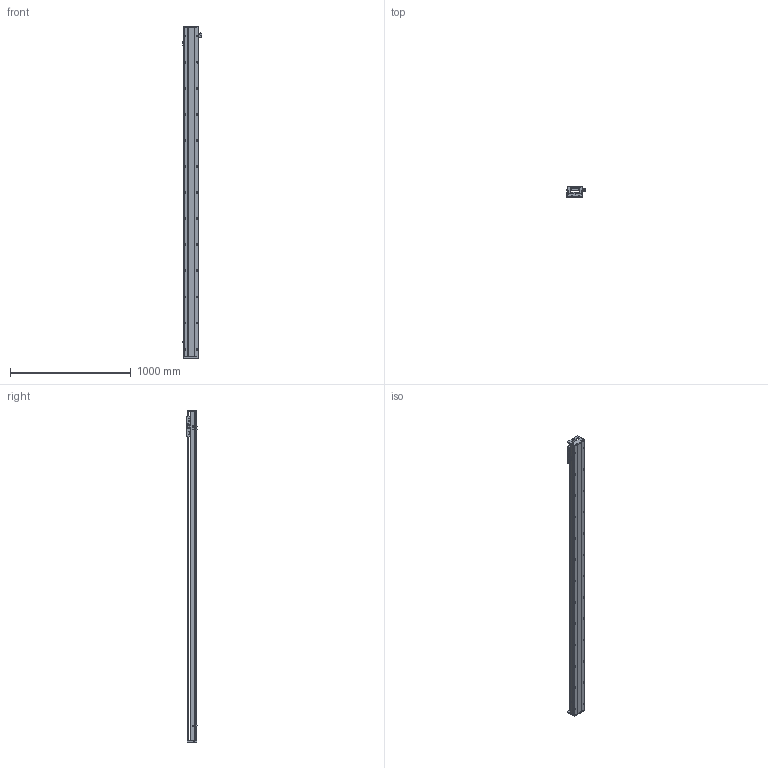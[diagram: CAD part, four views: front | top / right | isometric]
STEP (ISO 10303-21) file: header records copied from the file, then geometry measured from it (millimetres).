
FILE_DESCRIPTION (( 'STEP AP203' ), '1' );
FILE_NAME ('SKR12S-C1-S2478（简）.STEP', '2022-09-26T03:06:41', ( '' ), ( '' ), 'SwSTEP 2.0', 'SolidWorks 2018', '' );
FILE_SCHEMA (( 'CONFIG_CONTROL_DESIGN' ));
Length unit declared in the file: millimetre
Products named in the file (8): SIKO棠掑; 棠掑假蚾輸; 覜茼え; SKR12耜啣; SKR12滑台-170L（简）; EE-SX672; SKR12菁釱-C1-S2478(潠); SKR12S-C1-S2478（简）
Assembly tree (10 placements, depth 2):
  SKR12S-C1-S2478（简）
    SKR12菁釱-C1-S2478(潠)
    SKR12滑台-170L（简）
    SKR12耜啣  x2
    棠掑假蚾輸
    SIKO棠掑
    覜茼え
    EE-SX672  x3
Bounding box: 162.7 x 87.3 x 2748 mm (x, y, z)
Volume: 11675648.5 mm3; surface area: 1820832.2 mm2
Topology: 11 solids, 11 shells, 1168 faces, 3139 edges, 1979 vertices
Faces by surface type: cylinder 577, plane 429, cone 162
Entity records: 33379 total; most frequent: CARTESIAN_POINT 7403, DIRECTION 5349, ORIENTED_EDGE 5186, EDGE_CURVE 2593, AXIS2_PLACEMENT_3D 2005, VERTEX_POINT 1683, LINE 1339, VECTOR 1339
